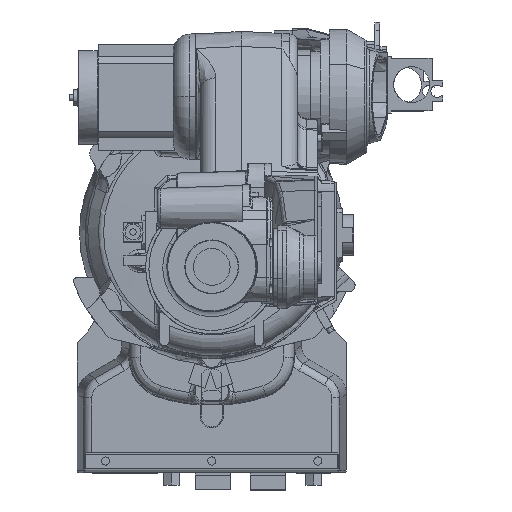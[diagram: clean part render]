
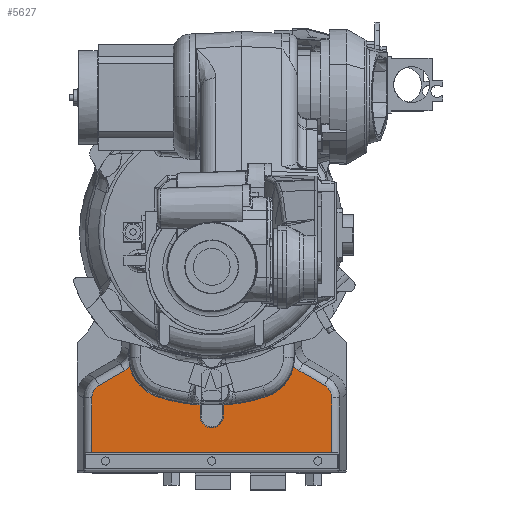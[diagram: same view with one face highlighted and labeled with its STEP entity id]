
A CAD part, top view. The second image highlights one B-rep face of the part: STEP entity #5627.
In plain terms, the highlighted planar face has unit normal (0, 0, 1).
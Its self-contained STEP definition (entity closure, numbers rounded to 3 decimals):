
#3703=CARTESIAN_POINT('Vertex',(-137.928,-187.117,177.)) ;
#3713=CARTESIAN_POINT('Vertex',(-146.915,-202.685,177.)) ;
#3717=CARTESIAN_POINT('Control Point',(-146.915,-202.685,177.)) ;
#3718=CARTESIAN_POINT('Control Point',(-146.915,-200.042,177.)) ;
#3719=CARTESIAN_POINT('Control Point',(-146.431,-197.401,177.)) ;
#3720=CARTESIAN_POINT('Control Point',(-145.46,-194.879,177.)) ;
#3721=CARTESIAN_POINT('Control Point',(-143.449,-191.622,177.)) ;
#3722=CARTESIAN_POINT('Control Point',(-140.707,-189.026,177.)) ;
#3723=CARTESIAN_POINT('Control Point',(-139.83,-188.317,177.)) ;
#3724=CARTESIAN_POINT('Control Point',(-138.901,-187.679,177.)) ;
#3725=CARTESIAN_POINT('Control Point',(-137.928,-187.117,177.)) ;
#3743=CARTESIAN_POINT('Vertex',(-106.895,-169.201,177.)) ;
#3746=CARTESIAN_POINT('Line Origine',(-115.739,-174.307,177.)) ;
#3841=CARTESIAN_POINT('Control Point',(-100.315,-164.059,177.)) ;
#3842=CARTESIAN_POINT('Control Point',(-100.424,-164.171,177.)) ;
#3843=CARTESIAN_POINT('Control Point',(-100.533,-164.282,177.)) ;
#3844=CARTESIAN_POINT('Control Point',(-100.643,-164.393,177.)) ;
#3845=CARTESIAN_POINT('Control Point',(-101.83,-165.576,177.)) ;
#3846=CARTESIAN_POINT('Control Point',(-103.099,-166.675,177.)) ;
#3847=CARTESIAN_POINT('Control Point',(-104.311,-167.598,177.)) ;
#3848=CARTESIAN_POINT('Control Point',(-105.579,-168.441,177.)) ;
#3849=CARTESIAN_POINT('Control Point',(-106.895,-169.201,177.)) ;
#3850=CARTESIAN_POINT('Vertex',(-100.315,-164.059,177.)) ;
#3919=CARTESIAN_POINT('Control Point',(-67.4,-201.014,177.)) ;
#3920=CARTESIAN_POINT('Control Point',(-77.222,-197.72,177.)) ;
#3921=CARTESIAN_POINT('Control Point',(-86.195,-191.875,177.)) ;
#3922=CARTESIAN_POINT('Control Point',(-93.411,-183.755,177.)) ;
#3923=CARTESIAN_POINT('Control Point',(-98.169,-174.179,177.)) ;
#3924=CARTESIAN_POINT('Control Point',(-100.315,-164.059,177.)) ;
#3925=CARTESIAN_POINT('Vertex',(-67.4,-201.014,177.)) ;
#4910=CARTESIAN_POINT('Control Point',(100.315,-164.059,177.)) ;
#4911=CARTESIAN_POINT('Control Point',(100.424,-164.171,177.)) ;
#4912=CARTESIAN_POINT('Control Point',(100.533,-164.282,177.)) ;
#4913=CARTESIAN_POINT('Control Point',(100.643,-164.393,177.)) ;
#4914=CARTESIAN_POINT('Control Point',(101.83,-165.576,177.)) ;
#4915=CARTESIAN_POINT('Control Point',(103.099,-166.675,177.)) ;
#4916=CARTESIAN_POINT('Control Point',(104.311,-167.598,177.)) ;
#4917=CARTESIAN_POINT('Control Point',(105.579,-168.441,177.)) ;
#4918=CARTESIAN_POINT('Control Point',(106.895,-169.201,177.)) ;
#4919=CARTESIAN_POINT('Vertex',(100.315,-164.059,177.)) ;
#4921=CARTESIAN_POINT('Vertex',(106.895,-169.201,177.)) ;
#5004=CARTESIAN_POINT('Vertex',(67.4,-201.014,177.)) ;
#5008=CARTESIAN_POINT('Control Point',(67.4,-201.014,177.)) ;
#5009=CARTESIAN_POINT('Control Point',(77.222,-197.72,177.)) ;
#5010=CARTESIAN_POINT('Control Point',(86.195,-191.875,177.)) ;
#5011=CARTESIAN_POINT('Control Point',(93.411,-183.755,177.)) ;
#5012=CARTESIAN_POINT('Control Point',(98.169,-174.179,177.)) ;
#5013=CARTESIAN_POINT('Control Point',(100.315,-164.059,177.)) ;
#5130=CARTESIAN_POINT('Vertex',(137.928,-187.117,177.)) ;
#5134=CARTESIAN_POINT('Control Point',(146.915,-202.685,177.)) ;
#5135=CARTESIAN_POINT('Control Point',(146.915,-200.042,177.)) ;
#5136=CARTESIAN_POINT('Control Point',(146.431,-197.401,177.)) ;
#5137=CARTESIAN_POINT('Control Point',(145.46,-194.879,177.)) ;
#5138=CARTESIAN_POINT('Control Point',(143.449,-191.622,177.)) ;
#5139=CARTESIAN_POINT('Control Point',(140.707,-189.026,177.)) ;
#5140=CARTESIAN_POINT('Control Point',(139.83,-188.317,177.)) ;
#5141=CARTESIAN_POINT('Control Point',(138.901,-187.679,177.)) ;
#5142=CARTESIAN_POINT('Control Point',(137.928,-187.117,177.)) ;
#5143=CARTESIAN_POINT('Vertex',(146.915,-202.685,177.)) ;
#5166=CARTESIAN_POINT('Line Origine',(114.578,-173.636,177.)) ;
#5210=CARTESIAN_POINT('Vertex',(-146.915,-270.,177.)) ;
#5213=CARTESIAN_POINT('Line Origine',(-146.915,-216.771,177.)) ;
#5260=CARTESIAN_POINT('Line Origine',(146.915,-216.771,177.)) ;
#5264=CARTESIAN_POINT('Vertex',(146.915,-270.,177.)) ;
#5566=CARTESIAN_POINT('Axis2P3D Location',(0.,-212.012,177.)) ;
#5571=CARTESIAN_POINT('Line Origine',(0.,-270.,177.)) ;
#5576=CARTESIAN_POINT('Axis2P3D Location',(0.,0.,177.)) ;
#5580=CARTESIAN_POINT('Vertex',(14.225,-211.534,177.)) ;
#5583=CARTESIAN_POINT('Line Origine',(14.225,-218.267,177.)) ;
#5587=CARTESIAN_POINT('Vertex',(14.225,-225.,177.)) ;
#5590=CARTESIAN_POINT('Axis2P3D Location',(0.,-225.,177.)) ;
#5594=CARTESIAN_POINT('Vertex',(-14.225,-225.,177.)) ;
#5597=CARTESIAN_POINT('Line Origine',(-14.225,-218.267,177.)) ;
#5601=CARTESIAN_POINT('Vertex',(-14.225,-211.534,177.)) ;
#5604=CARTESIAN_POINT('Axis2P3D Location',(0.,0.,177.)) ;
#3747=DIRECTION('Vector Direction',(0.866,0.5,0.)) ;
#5167=DIRECTION('Vector Direction',(0.866,-0.5,0.)) ;
#5214=DIRECTION('Vector Direction',(0.,-1.,0.)) ;
#5261=DIRECTION('Vector Direction',(0.,-1.,0.)) ;
#5567=DIRECTION('Axis2P3D Direction',(0.,0.,1.)) ;
#5568=DIRECTION('Axis2P3D XDirection',(1.,0.,0.)) ;
#5572=DIRECTION('Vector Direction',(1.,0.,0.)) ;
#5577=DIRECTION('Axis2P3D Direction',(0.,0.,1.)) ;
#5584=DIRECTION('Vector Direction',(0.,-1.,0.)) ;
#5591=DIRECTION('Axis2P3D Direction',(0.,0.,1.)) ;
#5598=DIRECTION('Vector Direction',(0.,1.,0.)) ;
#5605=DIRECTION('Axis2P3D Direction',(0.,0.,1.)) ;
#5569=AXIS2_PLACEMENT_3D('Plane Axis2P3D',#5566,#5567,#5568) ;
#5578=AXIS2_PLACEMENT_3D('Circle Axis2P3D',#5576,#5577,$) ;
#5592=AXIS2_PLACEMENT_3D('Circle Axis2P3D',#5590,#5591,$) ;
#5606=AXIS2_PLACEMENT_3D('Circle Axis2P3D',#5604,#5605,$) ;
#5610=ORIENTED_EDGE('',*,*,#5575,.T.) ;
#5611=ORIENTED_EDGE('',*,*,#5266,.F.) ;
#5612=ORIENTED_EDGE('',*,*,#5145,.F.) ;
#5613=ORIENTED_EDGE('',*,*,#5170,.F.) ;
#5614=ORIENTED_EDGE('',*,*,#4923,.F.) ;
#5615=ORIENTED_EDGE('',*,*,#5014,.F.) ;
#5616=ORIENTED_EDGE('',*,*,#5582,.F.) ;
#5617=ORIENTED_EDGE('',*,*,#5589,.T.) ;
#5618=ORIENTED_EDGE('',*,*,#5596,.F.) ;
#5619=ORIENTED_EDGE('',*,*,#5603,.T.) ;
#5620=ORIENTED_EDGE('',*,*,#5608,.F.) ;
#5621=ORIENTED_EDGE('',*,*,#3927,.F.) ;
#5622=ORIENTED_EDGE('',*,*,#3852,.T.) ;
#5623=ORIENTED_EDGE('',*,*,#3750,.T.) ;
#5624=ORIENTED_EDGE('',*,*,#3726,.T.) ;
#5625=ORIENTED_EDGE('',*,*,#5217,.T.) ;
#3748=VECTOR('Line Direction',#3747,1.) ;
#5168=VECTOR('Line Direction',#5167,1.) ;
#5215=VECTOR('Line Direction',#5214,1.) ;
#5262=VECTOR('Line Direction',#5261,1.) ;
#5573=VECTOR('Line Direction',#5572,1.) ;
#5585=VECTOR('Line Direction',#5584,1.) ;
#5599=VECTOR('Line Direction',#5598,1.) ;
#5627=ADVANCED_FACE('\X2\FF8EFF9EFF83FF9EFF68FF70\X0\.27',(#5626),#5570,.T.) ;
#3716=B_SPLINE_CURVE_WITH_KNOTS('',5,(#3717,#3718,#3719,#3720,#3721,#3722,#3723,#3724,#3725),.UNSPECIFIED.,.F.,.U.,(6,3,6),(87.229,111.653,122.039),.UNSPECIFIED.) ;
#3840=B_SPLINE_CURVE_WITH_KNOTS('',5,(#3841,#3842,#3843,#3844,#3845,#3846,#3847,#3848,#3849),.UNSPECIFIED.,.F.,.U.,(6,3,6),(74.828,75.766,84.898),.UNSPECIFIED.) ;
#3918=B_SPLINE_CURVE_WITH_KNOTS('',5,(#3919,#3920,#3921,#3922,#3923,#3924),.UNSPECIFIED.,.F.,.U.,(6,6),(0.,66.468),.UNSPECIFIED.) ;
#4909=B_SPLINE_CURVE_WITH_KNOTS('',5,(#4910,#4911,#4912,#4913,#4914,#4915,#4916,#4917,#4918),.UNSPECIFIED.,.F.,.U.,(6,3,6),(74.828,75.766,84.898),.UNSPECIFIED.) ;
#5007=B_SPLINE_CURVE_WITH_KNOTS('',5,(#5008,#5009,#5010,#5011,#5012,#5013),.UNSPECIFIED.,.F.,.U.,(6,6),(0.,66.468),.UNSPECIFIED.) ;
#5133=B_SPLINE_CURVE_WITH_KNOTS('',5,(#5134,#5135,#5136,#5137,#5138,#5139,#5140,#5141,#5142),.UNSPECIFIED.,.F.,.U.,(6,3,6),(87.229,111.653,122.039),.UNSPECIFIED.) ;
#5579=CIRCLE('generated circle',#5578,212.012) ;
#5593=CIRCLE('generated circle',#5592,14.225) ;
#5607=CIRCLE('generated circle',#5606,212.012) ;
#3726=EDGE_CURVE('',#3704,#3714,#3716,.F.) ;
#3750=EDGE_CURVE('',#3744,#3704,#3749,.F.) ;
#3852=EDGE_CURVE('',#3851,#3744,#3840,.T.) ;
#3927=EDGE_CURVE('',#3851,#3926,#3918,.F.) ;
#4923=EDGE_CURVE('',#4920,#4922,#4909,.T.) ;
#5014=EDGE_CURVE('',#5005,#4920,#5007,.T.) ;
#5145=EDGE_CURVE('',#5131,#5144,#5133,.F.) ;
#5170=EDGE_CURVE('',#4922,#5131,#5169,.T.) ;
#5217=EDGE_CURVE('',#3714,#5211,#5216,.T.) ;
#5266=EDGE_CURVE('',#5144,#5265,#5263,.T.) ;
#5575=EDGE_CURVE('',#5211,#5265,#5574,.T.) ;
#5582=EDGE_CURVE('',#5581,#5005,#5579,.T.) ;
#5589=EDGE_CURVE('',#5581,#5588,#5586,.T.) ;
#5596=EDGE_CURVE('',#5595,#5588,#5593,.T.) ;
#5603=EDGE_CURVE('',#5595,#5602,#5600,.T.) ;
#5608=EDGE_CURVE('',#3926,#5602,#5607,.T.) ;
#5609=EDGE_LOOP('',(#5610,#5611,#5612,#5613,#5614,#5615,#5616,#5617,#5618,#5619,#5620,#5621,#5622,#5623,#5624,#5625)) ;
#5626=FACE_OUTER_BOUND('',#5609,.T.) ;
#3749=LINE('Line',#3746,#3748) ;
#5169=LINE('Line',#5166,#5168) ;
#5216=LINE('Line',#5213,#5215) ;
#5263=LINE('Line',#5260,#5262) ;
#5574=LINE('Line',#5571,#5573) ;
#5586=LINE('Line',#5583,#5585) ;
#5600=LINE('Line',#5597,#5599) ;
#5570=PLANE('',#5569) ;
#3704=VERTEX_POINT('',#3703) ;
#3714=VERTEX_POINT('',#3713) ;
#3744=VERTEX_POINT('',#3743) ;
#3851=VERTEX_POINT('',#3850) ;
#3926=VERTEX_POINT('',#3925) ;
#4920=VERTEX_POINT('',#4919) ;
#4922=VERTEX_POINT('',#4921) ;
#5005=VERTEX_POINT('',#5004) ;
#5131=VERTEX_POINT('',#5130) ;
#5144=VERTEX_POINT('',#5143) ;
#5211=VERTEX_POINT('',#5210) ;
#5265=VERTEX_POINT('',#5264) ;
#5581=VERTEX_POINT('',#5580) ;
#5588=VERTEX_POINT('',#5587) ;
#5595=VERTEX_POINT('',#5594) ;
#5602=VERTEX_POINT('',#5601) ;
